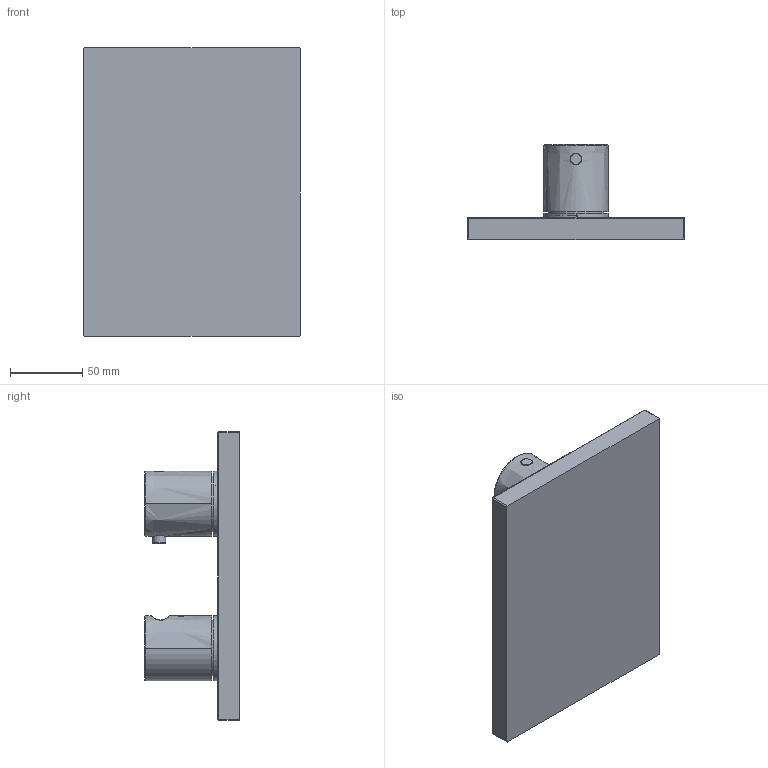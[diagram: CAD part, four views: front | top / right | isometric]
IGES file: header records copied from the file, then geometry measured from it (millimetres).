
Start section:  PTC IGES file: db420ve.igs
Global section: file name: db420ve.igs; native system: Creo Parametric by Parametric Technology Corporation; preprocessor: 2012130; author: Uporabnik; organization: Unknown; date: 20121114.144341; units: millimetre
Bounding box: 150 x 65.5 x 200 mm (x, y, z)
Volume: 609690.8 mm3; surface area: 92682.4 mm2
Topology: 1 solids, 8 shells, 72 faces, 226 edges, 220 vertices
Faces by surface type: revolution 55, bspline 17
